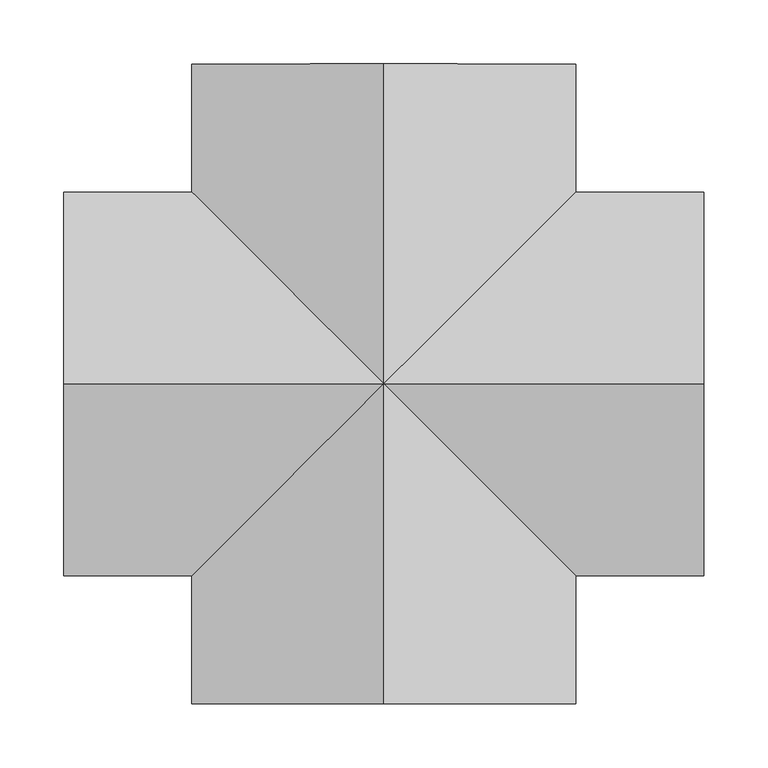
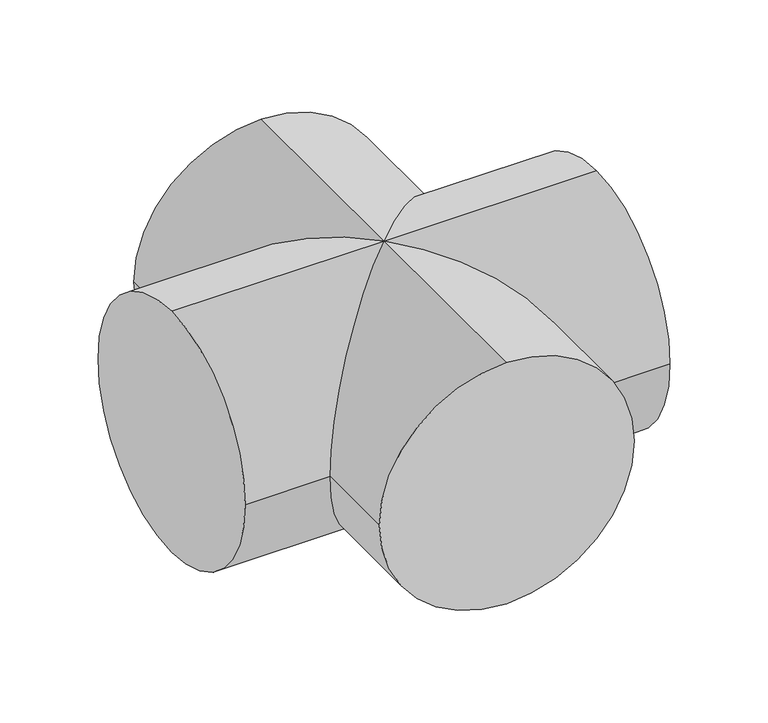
"""IFC4 building model written with IfcOpenShell, lengths in millimetres: duct fitting geometry, BL_КрестовинаВоздуховодов_Круглая : Ниппельное соединение."""

from ifc_helpers import new_model, si_unit, frame, origin, place, context, project, spatial, circle_curve, ellipse_curve, source, transform, mapped, element, save
from ifc_brep_helpers import plane_surface, cylinder_surface, advanced_brep


def duct_fitting_c73acc6d(model_context):
    return source(origin(), model_context, "Body", "AdvancedBrep", [
        advanced_brep(
        [(0.0, -250.0, 150.0), (-150.0, -250.0, 0.0), (0.0, -250.0, -150.0), (150.0, -250.0, 0.0), (150.0, -150.0, 0.0), (0.0, 0.0, 150.0), (0.0, 0.0, -150.0), (-150.0, -150.0, 0.0), (-250.0, 0.0, 150.0), (-250.0, 150.0, 0.0), (-250.0, 0.0, -150.0), (-250.0, -150.0, 0.0), (250.0, 0.0, 150.0), (250.0, -150.0, 0.0), (250.0, 0.0, -150.0), (250.0, 150.0, 0.0), (-150.0, 150.0, 0.0), (150.0, 150.0, 0.0), (0.0, 250.0, 150.0), (150.0, 250.0, 0.0), (0.0, 250.0, -150.0), (-150.0, 250.0, 0.0)],
        [
            (0, 1, circle_curve(frame((0.0, -250.0, 0.0), z_axis=(0.0, -1.0, 0.0), x_axis=(1.0, 0.0, 0.0)), 150.0)),
            (1, 2, circle_curve(frame((0.0, -250.0, 0.0), z_axis=(0.0, -1.0, 0.0), x_axis=(1.0, 0.0, 0.0)), 150.0)),
            (2, 3, circle_curve(frame((0.0, -250.0, 0.0), z_axis=(0.0, -1.0, 0.0), x_axis=(1.0, 0.0, 0.0)), 150.0)),
            (3, 0, circle_curve(frame((0.0, -250.0, 0.0), z_axis=(0.0, -1.0, 0.0), x_axis=(1.0, 0.0, 0.0)), 150.0)),
            (3, 4),
            (4, 5, ellipse_curve(frame((0.0, 0.0, 0.0), z_axis=(-0.7071067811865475, -0.7071067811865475, 0.0), x_axis=(-0.7071067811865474, 0.7071067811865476, 0.0)), 212.1320344, 150.0)),
            (5, 0),
            (2, 6),
            (6, 4, ellipse_curve(frame((0.0, 0.0, 0.0), z_axis=(-0.7071067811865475, -0.7071067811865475, 0.0), x_axis=(-0.7071067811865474, 0.7071067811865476, 0.0)), 212.1320344, 150.0)),
            (1, 7),
            (7, 6, ellipse_curve(frame((0.0, 0.0, 0.0), z_axis=(0.7071067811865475, -0.7071067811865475, 0.0), x_axis=(0.7071067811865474, 0.7071067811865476, 0.0)), 212.1320344, 150.0)),
            (5, 7, ellipse_curve(frame((0.0, 0.0, 0.0), z_axis=(0.7071067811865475, -0.7071067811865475, 0.0), x_axis=(0.7071067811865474, 0.7071067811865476, 0.0)), 212.1320344, 150.0)),
            (8, 9, circle_curve(frame((-250.0, 0.0, 0.0), z_axis=(-1.0, 0.0, 0.0), x_axis=(0.0, 1.0, 0.0)), 150.0)),
            (9, 10, circle_curve(frame((-250.0, 0.0, 0.0), z_axis=(-1.0, 0.0, 0.0), x_axis=(0.0, 1.0, 0.0)), 150.0)),
            (10, 11, circle_curve(frame((-250.0, 0.0, 0.0), z_axis=(-1.0, 0.0, 0.0), x_axis=(0.0, 1.0, 0.0)), 150.0)),
            (11, 8, circle_curve(frame((-250.0, 0.0, 0.0), z_axis=(-1.0, 0.0, 0.0), x_axis=(0.0, 1.0, 0.0)), 150.0)),
            (12, 13, circle_curve(frame((250.0, 0.0, 0.0), z_axis=(1.0, 0.0, 0.0), x_axis=(0.0, 1.0, 0.0)), 150.0)),
            (13, 14, circle_curve(frame((250.0, 0.0, 0.0), z_axis=(1.0, 0.0, 0.0), x_axis=(0.0, 1.0, 0.0)), 150.0)),
            (14, 15, circle_curve(frame((250.0, 0.0, 0.0), z_axis=(1.0, 0.0, 0.0), x_axis=(0.0, 1.0, 0.0)), 150.0)),
            (15, 12, circle_curve(frame((250.0, 0.0, 0.0), z_axis=(1.0, 0.0, 0.0), x_axis=(0.0, 1.0, 0.0)), 150.0)),
            (8, 5),
            (5, 16, ellipse_curve(frame((0.0, 0.0, 0.0), z_axis=(-0.7071067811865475, -0.7071067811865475, 0.0), x_axis=(-0.7071067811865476, 0.7071067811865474, 0.0)), 212.1320344, 150.0)),
            (16, 9),
            (15, 17),
            (17, 5, ellipse_curve(frame((0.0, 0.0, 0.0), z_axis=(0.7071067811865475, -0.7071067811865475, 0.0), x_axis=(-0.7071067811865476, -0.7071067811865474, 0.0)), 212.1320344, 150.0)),
            (5, 12),
            (16, 6, ellipse_curve(frame((0.0, 0.0, 0.0), z_axis=(-0.7071067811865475, -0.7071067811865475, 0.0), x_axis=(-0.7071067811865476, 0.7071067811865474, 0.0)), 212.1320344, 150.0)),
            (6, 10),
            (14, 6),
            (6, 17, ellipse_curve(frame((0.0, 0.0, 0.0), z_axis=(0.7071067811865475, -0.7071067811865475, 0.0), x_axis=(-0.7071067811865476, -0.7071067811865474, 0.0)), 212.1320344, 150.0)),
            (7, 11),
            (13, 4),
            (18, 19, circle_curve(frame((0.0, 250.0, 0.0), z_axis=(0.0, 1.0, 0.0), x_axis=(1.0, 0.0, 0.0)), 150.0)),
            (19, 20, circle_curve(frame((0.0, 250.0, 0.0), z_axis=(0.0, 1.0, 0.0), x_axis=(1.0, 0.0, 0.0)), 150.0)),
            (20, 21, circle_curve(frame((0.0, 250.0, 0.0), z_axis=(0.0, 1.0, 0.0), x_axis=(1.0, 0.0, 0.0)), 150.0)),
            (21, 18, circle_curve(frame((0.0, 250.0, 0.0), z_axis=(0.0, 1.0, 0.0), x_axis=(1.0, 0.0, 0.0)), 150.0)),
            (18, 5),
            (17, 19),
            (6, 20),
            (16, 21),
        ],
        [
            plane_surface(frame((0.0, -250.0, 0.0), z_axis=(0.0, -1.0, 0.0), x_axis=(0.0, 0.0, 1.0))),
            cylinder_surface(frame((0.0, 0.0, 0.0), z_axis=(0.0, 1.0, 0.0), x_axis=(1.0, 0.0, 0.0)), 150.0),
            plane_surface(frame((-250.0, 0.0, 0.0), z_axis=(-1.0, 0.0, 0.0), x_axis=(0.0, 0.0, 1.0))),
            plane_surface(frame((250.0, 0.0, 0.0), z_axis=(1.0, 0.0, 0.0), x_axis=(0.0, 0.0, 1.0))),
            cylinder_surface(frame((-250.0, 0.0, 0.0), z_axis=(-1.0, 0.0, 0.0), x_axis=(0.0, 1.0, 0.0)), 150.0),
            plane_surface(frame((0.0, 250.0, 0.0), z_axis=(0.0, 1.0, 0.0), x_axis=(0.0, 0.0, 1.0))),
            cylinder_surface(frame((0.0, 250.0, 0.0), z_axis=(0.0, 1.0, 0.0), x_axis=(1.0, 0.0, 0.0)), 150.0),
        ],
        [
            (0, [[1, 2, 3, 4]]),
            (1, [[-4, 5, 6, 7]]),
            (1, [[-3, 8, 9, -5]]),
            (1, [[-2, 10, 11, -8]]),
            (1, [[-1, -7, 12, -10]]),
            (2, [[13, 14, 15, 16]]),
            (3, [[17, 18, 19, 20]]),
            (4, [[-13, 21, 22, 23]]),
            (4, [[-20, 24, 25, 26]]),
            (4, [[-14, -23, 27, 28]]),
            (4, [[-19, 29, 30, -24]]),
            (4, [[-15, -28, -11, 31]]),
            (4, [[-18, 32, -9, -29]]),
            (4, [[-16, -31, -12, -21]]),
            (4, [[-17, -26, -6, -32]]),
            (5, [[33, 34, 35, 36]]),
            (6, [[-33, 37, -25, 38]]),
            (6, [[-34, -38, -30, 39]]),
            (6, [[-35, -39, -27, 40]]),
            (6, [[-36, -40, -22, -37]]),
        ],
    ),
    ])


if __name__ == "__main__":
    model = new_model("IFC4")
    model_context = context("Model", 3, world=origin())
    ifc_project = project(units=[si_unit("LENGTHUNIT", "METRE", prefix="MILLI")], contexts=[model_context])
    site = spatial("IfcSite", under=ifc_project)
    building = spatial("IfcBuilding", under=site)
    placement = place(None, origin())
    duct_fitting_shape = duct_fitting_c73acc6d(model_context)
    element("IfcDuctFitting", 1, ObjectType="BL_КрестовинаВоздуховодов_Круглая : Ниппельное соединение", at=placement, inside=building, context=model_context, shape_type="MappedRepresentation", body=[
        mapped(duct_fitting_shape, transform((0.0, 0.0, 0.0), x_axis=(1.0, 0.0, 0.0), y_axis=(0.0, 1.0, 0.0), z_axis=(0.0, 0.0, 1.0))),
    ])
    save(model, "model.ifc")
